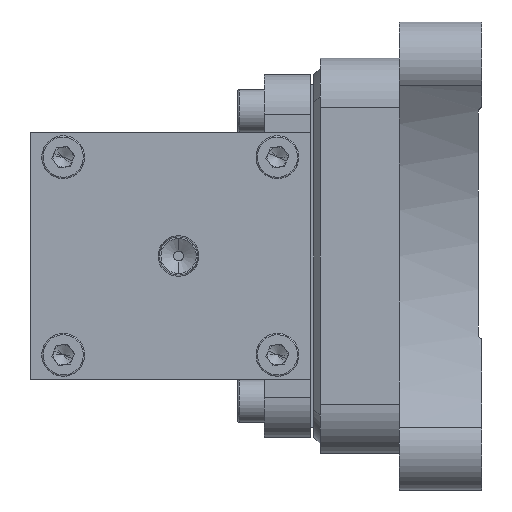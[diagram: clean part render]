
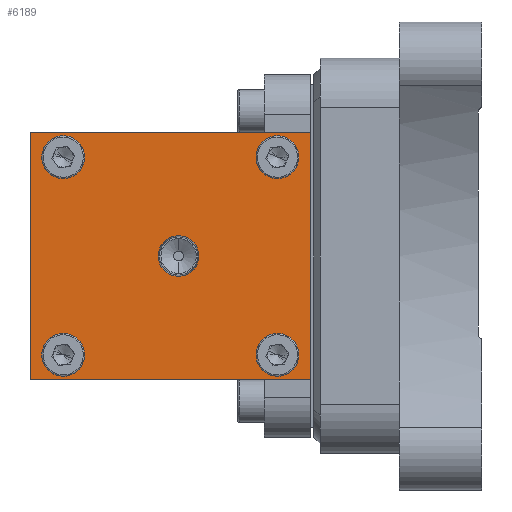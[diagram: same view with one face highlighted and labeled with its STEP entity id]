
A CAD part, left-side view. The second image highlights one B-rep face of the part: STEP entity #6189.
In plain terms, the highlighted planar face has unit normal (-1, 0, 0) as drawn and (1, 0, 0) by its records, which use the part's own axes.
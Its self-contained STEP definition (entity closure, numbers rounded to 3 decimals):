
#96 = DIRECTION ( 'NONE',  ( 0., 0., -1. ) ) ;
#174 = CARTESIAN_POINT ( 'NONE',  ( 93., 41., 0. ) ) ;
#203 = EDGE_LOOP ( 'NONE', ( #4482, #6714 ) ) ;
#291 = CARTESIAN_POINT ( 'NONE',  ( 93., 76., -30. ) ) ;
#311 = DIRECTION ( 'NONE',  ( 1., 0., 0. ) ) ;
#525 = CARTESIAN_POINT ( 'NONE',  ( 93., 1., -37.5 ) ) ;
#777 = VERTEX_POINT ( 'NONE', #8675 ) ;
#807 = CARTESIAN_POINT ( 'NONE',  ( 93., 41., -6.154 ) ) ;
#919 = LINE ( 'NONE', #6587, #2662 ) ;
#921 = DIRECTION ( 'NONE',  ( 0., 0., -1. ) ) ;
#952 = AXIS2_PLACEMENT_3D ( 'NONE', #7862, #311, #3291 ) ;
#965 = AXIS2_PLACEMENT_3D ( 'NONE', #9375, #7960, #8637 ) ;
#1042 = CARTESIAN_POINT ( 'NONE',  ( 93., 76., -34. ) ) ;
#1160 = CARTESIAN_POINT ( 'NONE',  ( 93., 11., -26. ) ) ;
#1196 = EDGE_CURVE ( 'NONE', #2521, #9379, #6843, .T. ) ;
#1276 = DIRECTION ( 'NONE',  ( 0., 0., -1. ) ) ;
#1283 = CARTESIAN_POINT ( 'NONE',  ( 93., 41., 6.154 ) ) ;
#1309 = CIRCLE ( 'NONE', #4905, 6.154 ) ;
#1339 = AXIS2_PLACEMENT_3D ( 'NONE', #9473, #2870, #6596 ) ;
#1384 = AXIS2_PLACEMENT_3D ( 'NONE', #5831, #5107, #5889 ) ;
#1470 = AXIS2_PLACEMENT_3D ( 'NONE', #9118, #7411, #2428 ) ;
#1482 = DIRECTION ( 'NONE',  ( 0., 0., -1. ) ) ;
#1575 = FACE_BOUND ( 'NONE', #5947, .T. ) ;
#1657 = DIRECTION ( 'NONE',  ( 1., 0., 0. ) ) ;
#1674 = EDGE_CURVE ( 'NONE', #9379, #2521, #2785, .T. ) ;
#1688 = EDGE_LOOP ( 'NONE', ( #3642, #8586 ) ) ;
#1767 = DIRECTION ( 'NONE',  ( 0., 0., -1. ) ) ;
#1808 = FACE_BOUND ( 'NONE', #1688, .T. ) ;
#1817 = ORIENTED_EDGE ( 'NONE', *, *, #3186, .F. ) ;
#1819 = EDGE_CURVE ( 'NONE', #777, #8087, #4749, .T. ) ;
#1966 = DIRECTION ( 'NONE',  ( 1., 0., 0. ) ) ;
#2022 = CARTESIAN_POINT ( 'NONE',  ( 93., 86., 37.5 ) ) ;
#2024 = CARTESIAN_POINT ( 'NONE',  ( 93., 1., 37.5 ) ) ;
#2130 = VECTOR ( 'NONE', #2411, 1000. ) ;
#2302 = CIRCLE ( 'NONE', #1339, 4. ) ;
#2352 = CARTESIAN_POINT ( 'NONE',  ( 93., 11., 34. ) ) ;
#2366 = EDGE_CURVE ( 'NONE', #4809, #4615, #9144, .T. ) ;
#2394 = EDGE_CURVE ( 'NONE', #4735, #2620, #3113, .T. ) ;
#2411 = DIRECTION ( 'NONE',  ( 0., 1., 0. ) ) ;
#2428 = DIRECTION ( 'NONE',  ( 0., 0., -1. ) ) ;
#2488 = CARTESIAN_POINT ( 'NONE',  ( 93., 76., -26. ) ) ;
#2521 = VERTEX_POINT ( 'NONE', #2488 ) ;
#2620 = VERTEX_POINT ( 'NONE', #1283 ) ;
#2662 = VECTOR ( 'NONE', #7983, 1000. ) ;
#2773 = EDGE_CURVE ( 'NONE', #8087, #777, #2878, .T. ) ;
#2785 = CIRCLE ( 'NONE', #3867, 4. ) ;
#2870 = DIRECTION ( 'NONE',  ( 1., 0., 0. ) ) ;
#2878 = CIRCLE ( 'NONE', #965, 4. ) ;
#2940 = EDGE_CURVE ( 'NONE', #6678, #8665, #2302, .T. ) ;
#3034 = EDGE_CURVE ( 'NONE', #8665, #6678, #6353, .T. ) ;
#3049 = AXIS2_PLACEMENT_3D ( 'NONE', #4975, #1966, #1276 ) ;
#3113 = CIRCLE ( 'NONE', #6926, 6.154 ) ;
#3186 = EDGE_CURVE ( 'NONE', #8172, #7167, #8302, .T. ) ;
#3291 = DIRECTION ( 'NONE',  ( 0., 0., -1. ) ) ;
#3295 = FACE_BOUND ( 'NONE', #5749, .T. ) ;
#3314 = DIRECTION ( 'NONE',  ( 0., 0., -1. ) ) ;
#3374 = EDGE_CURVE ( 'NONE', #6444, #7031, #5159, .T. ) ;
#3642 = ORIENTED_EDGE ( 'NONE', *, *, #2394, .F. ) ;
#3748 = FACE_OUTER_BOUND ( 'NONE', #6813, .T. ) ;
#3804 = ORIENTED_EDGE ( 'NONE', *, *, #1196, .F. ) ;
#3867 = AXIS2_PLACEMENT_3D ( 'NONE', #291, #6125, #1767 ) ;
#3976 = CARTESIAN_POINT ( 'NONE',  ( 93., 86., 37.5 ) ) ;
#4139 = CARTESIAN_POINT ( 'NONE',  ( 93., 11., 26. ) ) ;
#4163 = EDGE_CURVE ( 'NONE', #2620, #4735, #1309, .T. ) ;
#4421 = CARTESIAN_POINT ( 'NONE',  ( 93., 76., 34. ) ) ;
#4482 = ORIENTED_EDGE ( 'NONE', *, *, #3034, .F. ) ;
#4540 = CARTESIAN_POINT ( 'NONE',  ( 93., 41., 0. ) ) ;
#4615 = VERTEX_POINT ( 'NONE', #2352 ) ;
#4735 = VERTEX_POINT ( 'NONE', #807 ) ;
#4749 = CIRCLE ( 'NONE', #9022, 4. ) ;
#4809 = VERTEX_POINT ( 'NONE', #4139 ) ;
#4905 = AXIS2_PLACEMENT_3D ( 'NONE', #4540, #5967, #96 ) ;
#4975 = CARTESIAN_POINT ( 'NONE',  ( 93., 11., 30. ) ) ;
#5041 = DIRECTION ( 'NONE',  ( 1., 0., 0. ) ) ;
#5059 = CIRCLE ( 'NONE', #3049, 4. ) ;
#5107 = DIRECTION ( 'NONE',  ( -1., 0., 0. ) ) ;
#5159 = LINE ( 'NONE', #6624, #5601 ) ;
#5273 = FACE_BOUND ( 'NONE', #6067, .T. ) ;
#5430 = CARTESIAN_POINT ( 'NONE',  ( 93., 11., 30. ) ) ;
#5436 = ORIENTED_EDGE ( 'NONE', *, *, #1674, .F. ) ;
#5501 = FACE_BOUND ( 'NONE', #203, .T. ) ;
#5601 = VECTOR ( 'NONE', #1482, 1000. ) ;
#5662 = CARTESIAN_POINT ( 'NONE',  ( 93., 11., -30. ) ) ;
#5749 = EDGE_LOOP ( 'NONE', ( #6852, #6599 ) ) ;
#5831 = CARTESIAN_POINT ( 'NONE',  ( 93., 86., 37.5 ) ) ;
#5889 = DIRECTION ( 'NONE',  ( 0., 0., 1. ) ) ;
#5902 = ORIENTED_EDGE ( 'NONE', *, *, #7606, .F. ) ;
#5947 = EDGE_LOOP ( 'NONE', ( #5436, #3804 ) ) ;
#5967 = DIRECTION ( 'NONE',  ( 1., 0., 0. ) ) ;
#6015 = EDGE_CURVE ( 'NONE', #7031, #7167, #919, .T. ) ;
#6067 = EDGE_LOOP ( 'NONE', ( #7962, #7048 ) ) ;
#6125 = DIRECTION ( 'NONE',  ( 1., 0., 0. ) ) ;
#6174 = DIRECTION ( 'NONE',  ( 1., 0., 0. ) ) ;
#6189 = ADVANCED_FACE ( 'NONE', ( #3748, #5501, #1575, #5273, #3295, #1808 ), #6606, .F. ) ;
#6298 = EDGE_CURVE ( 'NONE', #4615, #4809, #5059, .T. ) ;
#6353 = CIRCLE ( 'NONE', #1470, 4. ) ;
#6444 = VERTEX_POINT ( 'NONE', #2024 ) ;
#6587 = CARTESIAN_POINT ( 'NONE',  ( 93., 86., -37.5 ) ) ;
#6596 = DIRECTION ( 'NONE',  ( 0., 0., -1. ) ) ;
#6599 = ORIENTED_EDGE ( 'NONE', *, *, #2773, .F. ) ;
#6606 = PLANE ( 'NONE',  #1384 ) ;
#6624 = CARTESIAN_POINT ( 'NONE',  ( 93., 1., 37.5 ) ) ;
#6678 = VERTEX_POINT ( 'NONE', #4421 ) ;
#6714 = ORIENTED_EDGE ( 'NONE', *, *, #2940, .F. ) ;
#6813 = EDGE_LOOP ( 'NONE', ( #6928, #1817, #5902, #7659 ) ) ;
#6843 = CIRCLE ( 'NONE', #952, 4. ) ;
#6852 = ORIENTED_EDGE ( 'NONE', *, *, #1819, .F. ) ;
#6926 = AXIS2_PLACEMENT_3D ( 'NONE', #174, #6174, #921 ) ;
#6928 = ORIENTED_EDGE ( 'NONE', *, *, #6015, .T. ) ;
#7031 = VERTEX_POINT ( 'NONE', #525 ) ;
#7045 = VECTOR ( 'NONE', #3314, 1000. ) ;
#7048 = ORIENTED_EDGE ( 'NONE', *, *, #6298, .F. ) ;
#7082 = CARTESIAN_POINT ( 'NONE',  ( 93., 86., 37.5 ) ) ;
#7167 = VERTEX_POINT ( 'NONE', #9554 ) ;
#7411 = DIRECTION ( 'NONE',  ( 1., 0., 0. ) ) ;
#7606 = EDGE_CURVE ( 'NONE', #6444, #8172, #8477, .T. ) ;
#7659 = ORIENTED_EDGE ( 'NONE', *, *, #3374, .T. ) ;
#7687 = CARTESIAN_POINT ( 'NONE',  ( 93., 76., 26. ) ) ;
#7862 = CARTESIAN_POINT ( 'NONE',  ( 93., 76., -30. ) ) ;
#7938 = DIRECTION ( 'NONE',  ( 0., 0., -1. ) ) ;
#7960 = DIRECTION ( 'NONE',  ( 1., 0., 0. ) ) ;
#7962 = ORIENTED_EDGE ( 'NONE', *, *, #2366, .F. ) ;
#7983 = DIRECTION ( 'NONE',  ( 0., 1., 0. ) ) ;
#8087 = VERTEX_POINT ( 'NONE', #1160 ) ;
#8172 = VERTEX_POINT ( 'NONE', #2022 ) ;
#8302 = LINE ( 'NONE', #7082, #7045 ) ;
#8328 = DIRECTION ( 'NONE',  ( 0., 0., -1. ) ) ;
#8477 = LINE ( 'NONE', #3976, #2130 ) ;
#8519 = AXIS2_PLACEMENT_3D ( 'NONE', #5430, #1657, #8328 ) ;
#8586 = ORIENTED_EDGE ( 'NONE', *, *, #4163, .F. ) ;
#8637 = DIRECTION ( 'NONE',  ( 0., 0., -1. ) ) ;
#8665 = VERTEX_POINT ( 'NONE', #7687 ) ;
#8675 = CARTESIAN_POINT ( 'NONE',  ( 93., 11., -34. ) ) ;
#9022 = AXIS2_PLACEMENT_3D ( 'NONE', #5662, #5041, #7938 ) ;
#9118 = CARTESIAN_POINT ( 'NONE',  ( 93., 76., 30. ) ) ;
#9144 = CIRCLE ( 'NONE', #8519, 4. ) ;
#9375 = CARTESIAN_POINT ( 'NONE',  ( 93., 11., -30. ) ) ;
#9379 = VERTEX_POINT ( 'NONE', #1042 ) ;
#9473 = CARTESIAN_POINT ( 'NONE',  ( 93., 76., 30. ) ) ;
#9554 = CARTESIAN_POINT ( 'NONE',  ( 93., 86., -37.5 ) ) ;
